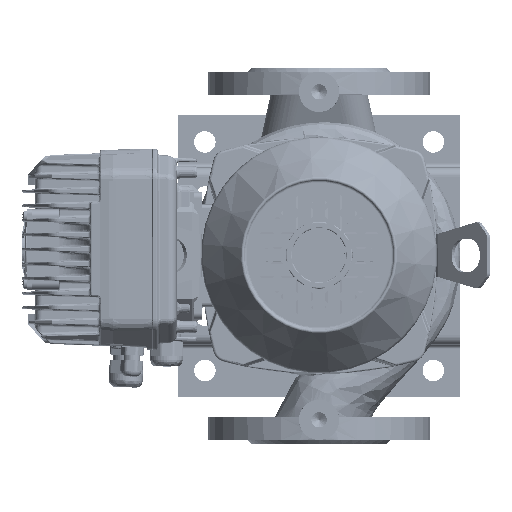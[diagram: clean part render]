
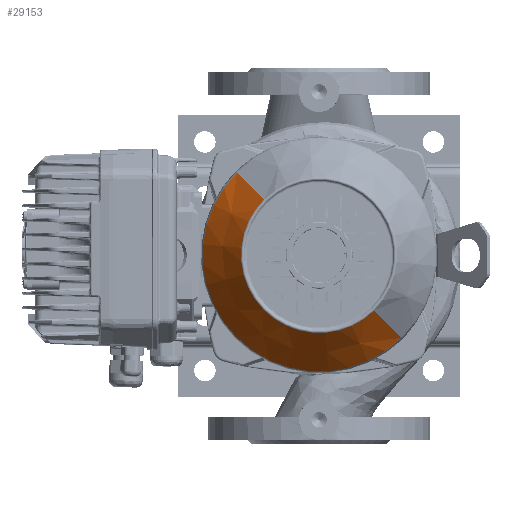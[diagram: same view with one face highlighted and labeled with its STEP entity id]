
A CAD part, top view. The second image highlights one B-rep face of the part: STEP entity #29153.
In plain terms, the highlighted conical face has half-angle 37 degrees and reference radius 58.108 mm.
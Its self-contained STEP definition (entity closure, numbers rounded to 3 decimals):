
#29153=ADVANCED_FACE('NONE',(#98876),#98877,.T.);
#98876=FACE_OUTER_BOUND('',#145253,.T.);
#98877=CONICAL_SURFACE('',#145254,58.108,0.646);
#145253=EDGE_LOOP('',(#175934,#175935,#175936,#175937));
#145254=AXIS2_PLACEMENT_3D('',#175938,#175939,#175940);
#175934=ORIENTED_EDGE('',*,*,#203238,.T.);
#175935=ORIENTED_EDGE('',*,*,#203316,.T.);
#175936=ORIENTED_EDGE('',*,*,#203239,.T.);
#175937=ORIENTED_EDGE('',*,*,#203342,.F.);
#175938=CARTESIAN_POINT('',(0.,96.403,0.));
#175939=DIRECTION('',(0.,-1.0,0.));
#175940=DIRECTION('',(0.,0.,-1.0));
#203238=EDGE_CURVE('',#292145,#292148,#292149,.T.);
#203239=EDGE_CURVE('',#292150,#292143,#292151,.T.);
#203316=EDGE_CURVE('NONE',#292148,#292150,#292282,.T.);
#203342=EDGE_CURVE('NONE',#292145,#292143,#292314,.T.);
#292143=VERTEX_POINT('',#322828);
#292145=VERTEX_POINT('NONE',#322830);
#292148=VERTEX_POINT('NONE',#322833);
#292149=LINE('',#322834,#322835);
#292150=VERTEX_POINT('',#322836);
#292151=LINE('',#322837,#322838);
#292282=CIRCLE('',#323331,86.592);
#292314=CIRCLE('',#323561,58.108);
#322828=CARTESIAN_POINT('',(0.,96.403,58.108));
#322830=CARTESIAN_POINT('',(0.,96.403,-58.108));
#322833=CARTESIAN_POINT('',(0.,58.603,-86.592));
#322834=CARTESIAN_POINT('',(0.,96.403,-58.108));
#322835=VECTOR('',#333824,1.0);
#322836=CARTESIAN_POINT('',(0.,58.603,86.592));
#322837=CARTESIAN_POINT('',(0.,96.403,58.108));
#322838=VECTOR('',#333825,1.0);
#323331=AXIS2_PLACEMENT_3D('',#333952,#333953,#333954);
#323561=AXIS2_PLACEMENT_3D('',#334012,#334013,#334014);
#333824=DIRECTION('',(0.,-0.799,-0.602));
#333825=DIRECTION('',(0.,0.799,-0.602));
#333952=CARTESIAN_POINT('',(0.,58.603,0.));
#333953=DIRECTION('',(0.,1.0,0.));
#333954=DIRECTION('',(0.,0.,1.0));
#334012=CARTESIAN_POINT('',(0.,96.403,0.));
#334013=DIRECTION('',(0.,1.0,0.));
#334014=DIRECTION('',(0.,0.,1.0));
